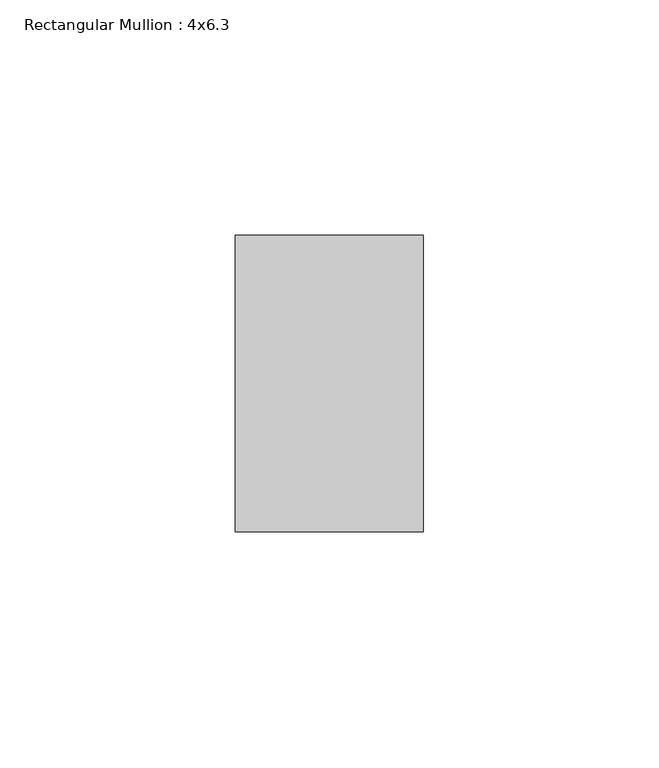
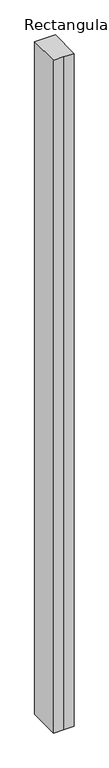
"""IFC4 building model written with IfcOpenShell, lengths in millimetres: member geometry, Rectangular Mullion : 4x6.3."""

import ifcopenshell
import ifcopenshell.guid

model = None  # the IFC model being written
_history = None  # IfcOwnerHistory: only IFC2X3 demands one
_inside = {}  # id of a spatial element -> (the spatial element, [elements in it])
_under = {}  # id of a project, library or spatial element -> (it, [spatial elements below it])
_declared = {}  # id of a project -> (the project, [libraries it declares])
_typed = {}  # id of a type object -> (the type object, [elements of that type])
_made_of = {}  # id of a material, layer set ... -> (it, [elements and type objects made of it])


def new_model(schema):
    """Start an empty IFC model of exactly this schema.

    Asked for "IFC4X3", IfcOpenShell would pick the latest addendum, in which some entities
    have other attributes; the version numbers below select the first issue.
    IFC2X3 requires an IfcOwnerHistory on every rooted entity: one is made here for all.
    """
    global model, _history
    if schema == "IFC4X3":
        model = ifcopenshell.file(schema_version=(4, 3, 0, 0))
    else:
        model = ifcopenshell.file(schema=schema)
    _inside.clear()
    _under.clear()
    _declared.clear()
    _typed.clear()
    _made_of.clear()
    _history = None
    if model.schema == "IFC2X3":
        org = make("IfcOrganization", Name="unknown")
        user = make(
            "IfcPersonAndOrganization",
            ThePerson=make("IfcPerson", FamilyName="unknown"),
            TheOrganization=org,
        )
        app = make(
            "IfcApplication",
            ApplicationDeveloper=org,
            Version="unknown",
            ApplicationFullName="unknown",
            ApplicationIdentifier="unknown",
        )
        _history = make(
            "IfcOwnerHistory",
            OwningUser=user,
            OwningApplication=app,
            ChangeAction="ADDED",
            CreationDate=0,
        )
    return model


def make(cls, **values):
    """One entity of the class cls with the attributes given. An attribute that is None is left unset."""
    return model.create_entity(
        cls, **{name: value for name, value in values.items() if value is not None}
    )


def rooted(cls, **values):
    """An entity with a GlobalId (a new one), such as an element, a storey or a relation."""
    return make(cls, GlobalId=ifcopenshell.guid.new(), OwnerHistory=_history, **values)


def si_unit(unit_type, name, prefix=None):
    """IfcSIUnit, for example si_unit("LENGTHUNIT", "METRE", prefix="MILLI")."""
    return make("IfcSIUnit", UnitType=unit_type, Prefix=prefix, Name=name)


def assignment(units):
    """IfcUnitAssignment: the units of a project."""
    return None if units is None else make("IfcUnitAssignment", Units=units)


def point(xyz):
    """IfcCartesianPoint."""
    return None if xyz is None else make("IfcCartesianPoint", Coordinates=xyz)


def direction(xyz):
    """IfcDirection."""
    return None if xyz is None else make("IfcDirection", DirectionRatios=xyz)


def frame(location, z_axis=None, x_axis=None):
    """IfcAxis2Placement3D, a coordinate frame: its origin and axes. An axis left out is left unset."""
    return make(
        "IfcAxis2Placement3D",
        Location=point(location),
        Axis=direction(z_axis),
        RefDirection=direction(x_axis),
    )


def origin():
    """The frame at (0, 0, 0) with its axes left unset."""
    return frame((0.0, 0.0, 0.0))


def place(relative_to, where):
    """IfcLocalPlacement: puts the frame where relative to a parent placement (None: the world)."""
    return make(
        "IfcLocalPlacement", PlacementRelTo=relative_to, RelativePlacement=where
    )


def context(
    kind, dimensions, precision=None, world=None, true_north=None, identifier=None
):
    """IfcGeometricRepresentationContext, for example the 3D "Model" context."""
    return make(
        "IfcGeometricRepresentationContext",
        ContextIdentifier=identifier,
        ContextType=kind,
        CoordinateSpaceDimension=dimensions,
        Precision=precision,
        WorldCoordinateSystem=world,
        TrueNorth=true_north,
    )


def project(units=None, contexts=None):
    """IfcProject with its units and contexts."""
    return rooted(
        "IfcProject",
        Name="project",
        RepresentationContexts=contexts,
        UnitsInContext=assignment(units),
    )


def spatial(cls, under=None, at=None, **own):
    """A site, building, storey or space (cls), placed at a placement, below another one or the project."""
    s = rooted(cls, ObjectPlacement=at, **own)
    if under is not None:
        _under.setdefault(under.id(), (under, []))[1].append(s)
    return s


def polyline(points):
    """IfcPolyline through the points."""
    return make("IfcPolyline", Points=[point(p) for p in points])


def outline(outer, holes=None, kind="AREA"):
    """IfcArbitraryClosedProfileDef: a profile drawn as a closed curve; with holes, ...WithVoids."""
    if holes is None:
        return make("IfcArbitraryClosedProfileDef", ProfileType=kind, OuterCurve=outer)
    return make(
        "IfcArbitraryProfileDefWithVoids",
        ProfileType=kind,
        OuterCurve=outer,
        InnerCurves=holes,
    )


def extrude(swept, where, along, depth):
    """IfcExtrudedAreaSolid: the profile swept, set in the frame where, extruded along a direction by depth."""
    return make(
        "IfcExtrudedAreaSolid",
        SweptArea=swept,
        Position=where,
        ExtrudedDirection=direction(along),
        Depth=depth,
    )


def shape(context_of_items, identifier, shape_type, items):
    """IfcShapeRepresentation: the items that make up one representation, for example the "Body"."""
    return make(
        "IfcShapeRepresentation",
        ContextOfItems=context_of_items,
        RepresentationIdentifier=identifier,
        RepresentationType=shape_type,
        Items=items,
    )


def source(mapping_origin, context_of_items, identifier, shape_type, items):
    """IfcRepresentationMap: a shape defined once, which mapped items show again and again."""
    return make(
        "IfcRepresentationMap",
        MappingOrigin=mapping_origin,
        MappedRepresentation=shape(context_of_items, identifier, shape_type, items),
    )


def transform(
    local_origin,
    x_axis=None,
    y_axis=None,
    z_axis=None,
    scale=None,
    scale2=None,
    scale3=None,
    uniform=True,
):
    """IfcCartesianTransformationOperator3D, or its non-uniform kind. x_axis, y_axis, z_axis: its Axis1, 2, 3."""
    if uniform:
        return make(
            "IfcCartesianTransformationOperator3D",
            Axis1=direction(x_axis),
            Axis2=direction(y_axis),
            LocalOrigin=point(local_origin),
            Scale=scale,
            Axis3=direction(z_axis),
        )
    return make(
        "IfcCartesianTransformationOperator3DnonUniform",
        Axis1=direction(x_axis),
        Axis2=direction(y_axis),
        LocalOrigin=point(local_origin),
        Scale=scale,
        Axis3=direction(z_axis),
        Scale2=scale2,
        Scale3=scale3,
    )


def mapped(mapping_source, mapping_target):
    """IfcMappedItem: shows the shape of a source again, moved by a transform."""
    return make(
        "IfcMappedItem", MappingSource=mapping_source, MappingTarget=mapping_target
    )


def made_of(thing, what):
    """Note that an element or type object is made of a material, layer set ...; save() writes the relation."""
    if what is not None:
        _made_of.setdefault(what.id(), (what, []))[1].append(thing)
    return thing


def element(
    cls,
    number,
    at=None,
    inside=None,
    cuts=None,
    type_object=None,
    material=None,
    context=None,
    identifier="Body",
    shape_type=None,
    held_by="IfcProductDefinitionShape",
    body=None,
    shapes=None,
    **own,
):
    """One element of the class cls, such as IfcWall. Its Tag is "e" and its number.

    at: its placement. inside: the storey or other place that contains it. cuts: it is an
    opening in that element (IfcRelVoidsElement). A single representation is given by context,
    identifier, shape_type and body (its items); several are given by shapes. held_by: the class
    of the entity that holds the representations. save() writes the other relations.
    """
    e = rooted(cls, Tag="e%d" % number, ObjectPlacement=at, **own)
    if body is not None:
        shapes = [shape(context, identifier, shape_type, body)]
    if shapes is not None:
        e.Representation = make(held_by, Representations=shapes)
    if inside is not None:
        _inside.setdefault(inside.id(), (inside, []))[1].append(e)
    if cuts is not None:
        rooted(
            "IfcRelVoidsElement", RelatingBuildingElement=cuts, RelatedOpeningElement=e
        )
    if type_object is not None:
        _typed.setdefault(type_object.id(), (type_object, []))[1].append(e)
    return made_of(e, material)


def aggregate(whole, parts):
    """IfcRelAggregates: a whole, such as a stair, and the parts it consists of."""
    return rooted("IfcRelAggregates", RelatingObject=whole, RelatedObjects=parts)


def save(model, path):
    """Write the relations noted so far, then the file.

    IfcRelAggregates (storeys below a building ...), IfcRelContainedInSpatialStructure (elements
    in a storey), IfcRelDefinesByType, IfcRelAssociatesMaterial and IfcRelDeclares: one each for
    every whole, place, type object, material and project.
    """
    for whole, parts in _under.values():
        aggregate(whole, parts)
    for where, things in _inside.values():
        rooted(
            "IfcRelContainedInSpatialStructure",
            RelatedElements=things,
            RelatingStructure=where,
        )
    for kind, things in _typed.values():
        rooted("IfcRelDefinesByType", RelatedObjects=things, RelatingType=kind)
    for what, things in _made_of.values():
        rooted("IfcRelAssociatesMaterial", RelatedObjects=things, RelatingMaterial=what)
    for by, libraries in _declared.values():
        rooted("IfcRelDeclares", RelatingContext=by, RelatedDefinitions=libraries)
    model.write(path)


def rectangular_mullion_4x6_3_24b2824f(model_context):
    return source(origin(), model_context, "Body", "SweptSolid", [
        extrude(outline(polyline([(-20.0, 20.0), (-20.0, 83.0), (20.0, 83.0), (20.0, 20.0), (0.0, 20.0), (-20.0, 20.0)])), frame((0.0, 0.0, -1380.4276368), z_axis=(0.0, 0.0, 1.0), x_axis=(1.0, 0.0, 0.0)), (0.0, 0.0, 1.0), 1380.4276368),
    ])


if __name__ == "__main__":
    model = new_model("IFC4")
    model_context = context("Model", 3, world=origin())
    ifc_project = project(units=[si_unit("LENGTHUNIT", "METRE", prefix="MILLI")], contexts=[model_context])
    site = spatial("IfcSite", under=ifc_project)
    building = spatial("IfcBuilding", under=site)
    placement = place(None, origin())
    rectangular_mullion_4x6_3_shape = rectangular_mullion_4x6_3_24b2824f(model_context)
    element("IfcMember", 1, ObjectType="Rectangular Mullion : 4x6.3", at=placement, inside=building, context=model_context, shape_type="MappedRepresentation", body=[
        mapped(rectangular_mullion_4x6_3_shape, transform((0.0, 0.0, 0.0), x_axis=(1.0, 0.0, 0.0), y_axis=(0.0, 1.0, 0.0), z_axis=(0.0, 0.0, 1.0))),
    ])
    save(model, "model.ifc")
